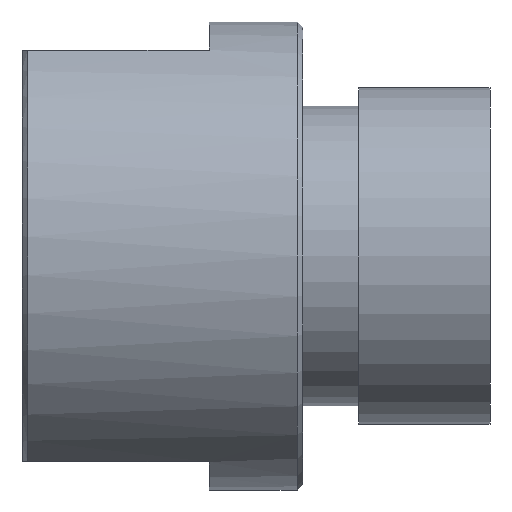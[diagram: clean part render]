
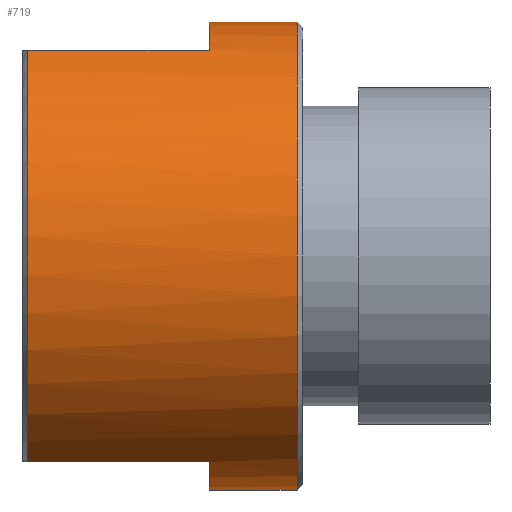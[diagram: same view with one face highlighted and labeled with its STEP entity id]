
A CAD part, left-side view. The second image highlights one B-rep face of the part: STEP entity #719.
In plain terms, the highlighted cylindrical face has radius 12.5 mm (diameter 25 mm), a partial arc.
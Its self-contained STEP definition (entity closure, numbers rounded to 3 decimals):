
#1 = ORIENTED_EDGE ( 'NONE', *, *, #670, .F. ) ;
#2 = VECTOR ( 'NONE', #641, 1000. ) ;
#24 = CARTESIAN_POINT ( 'NONE',  ( 0., 5., 0. ) ) ;
#25 = VERTEX_POINT ( 'NONE', #436 ) ;
#37 = VECTOR ( 'NONE', #693, 1000. ) ;
#43 = VERTEX_POINT ( 'NONE', #574 ) ;
#46 = EDGE_CURVE ( 'NONE', #465, #43, #843, .T. ) ;
#126 = CYLINDRICAL_SURFACE ( 'NONE', #742, 12.5 ) ;
#136 = CARTESIAN_POINT ( 'NONE',  ( 0., 0.3, 12.5 ) ) ;
#155 = EDGE_CURVE ( 'NONE', #25, #853, #684, .T. ) ;
#157 = CARTESIAN_POINT ( 'NONE',  ( 0., 15., 0. ) ) ;
#158 = DIRECTION ( 'NONE',  ( -1., 0., 0. ) ) ;
#162 = ORIENTED_EDGE ( 'NONE', *, *, #649, .F. ) ;
#164 = CARTESIAN_POINT ( 'NONE',  ( 0., 5., 0. ) ) ;
#170 = DIRECTION ( 'NONE',  ( 0., -1., 0. ) ) ;
#172 = ORIENTED_EDGE ( 'NONE', *, *, #46, .T. ) ;
#173 = CIRCLE ( 'NONE', #754, 12.5 ) ;
#189 = LINE ( 'NONE', #354, #37 ) ;
#193 = ORIENTED_EDGE ( 'NONE', *, *, #781, .F. ) ;
#202 = EDGE_CURVE ( 'NONE', #209, #453, #173, .T. ) ;
#209 = VERTEX_POINT ( 'NONE', #508 ) ;
#232 = CIRCLE ( 'NONE', #512, 12.5 ) ;
#243 = ORIENTED_EDGE ( 'NONE', *, *, #584, .T. ) ;
#246 = LINE ( 'NONE', #538, #773 ) ;
#252 = VERTEX_POINT ( 'NONE', #709 ) ;
#270 = CARTESIAN_POINT ( 'NONE',  ( 0., 5., -12.5 ) ) ;
#290 = DIRECTION ( 'NONE',  ( 0., 0., -1. ) ) ;
#350 = CARTESIAN_POINT ( 'NONE',  ( -5.937, 15., 11. ) ) ;
#354 = CARTESIAN_POINT ( 'NONE',  ( -5.937, 15., -11. ) ) ;
#361 = DIRECTION ( 'NONE',  ( 0., -1., 0. ) ) ;
#379 = ORIENTED_EDGE ( 'NONE', *, *, #202, .T. ) ;
#431 = ORIENTED_EDGE ( 'NONE', *, *, #714, .F. ) ;
#436 = CARTESIAN_POINT ( 'NONE',  ( 0., 0.3, -12.5 ) ) ;
#438 = EDGE_LOOP ( 'NONE', ( #193, #172, #431, #379, #1, #162, #243, #837 ) ) ;
#453 = VERTEX_POINT ( 'NONE', #802 ) ;
#465 = VERTEX_POINT ( 'NONE', #471 ) ;
#471 = CARTESIAN_POINT ( 'NONE',  ( 0., 5., 12.5 ) ) ;
#493 = DIRECTION ( 'NONE',  ( 0., 0., 1. ) ) ;
#506 = CARTESIAN_POINT ( 'NONE',  ( 0., 0.3, 0. ) ) ;
#508 = CARTESIAN_POINT ( 'NONE',  ( -5.937, 14.7, 11. ) ) ;
#512 = AXIS2_PLACEMENT_3D ( 'NONE', #164, #563, #158 ) ;
#535 = FACE_OUTER_BOUND ( 'NONE', #438, .T. ) ;
#538 = CARTESIAN_POINT ( 'NONE',  ( 0., 15., -12.5 ) ) ;
#563 = DIRECTION ( 'NONE',  ( 0., 1., 0. ) ) ;
#574 = CARTESIAN_POINT ( 'NONE',  ( -5.937, 5., 11. ) ) ;
#584 = EDGE_CURVE ( 'NONE', #794, #25, #246, .T. ) ;
#588 = DIRECTION ( 'NONE',  ( 0., -1., 0. ) ) ;
#635 = LINE ( 'NONE', #838, #2 ) ;
#641 = DIRECTION ( 'NONE',  ( 0., -1., 0. ) ) ;
#643 = DIRECTION ( 'NONE',  ( 0., 0., -1. ) ) ;
#647 = DIRECTION ( 'NONE',  ( 0., 1., 0. ) ) ;
#649 = EDGE_CURVE ( 'NONE', #794, #252, #232, .T. ) ;
#670 = EDGE_CURVE ( 'NONE', #252, #453, #189, .T. ) ;
#681 = DIRECTION ( 'NONE',  ( 0., -1., 0. ) ) ;
#684 = CIRCLE ( 'NONE', #707, 12.5 ) ;
#692 = DIRECTION ( 'NONE',  ( 0., -1., 0. ) ) ;
#693 = DIRECTION ( 'NONE',  ( 0., 1., 0. ) ) ;
#707 = AXIS2_PLACEMENT_3D ( 'NONE', #506, #647, #493 ) ;
#709 = CARTESIAN_POINT ( 'NONE',  ( -5.937, 5., -11. ) ) ;
#714 = EDGE_CURVE ( 'NONE', #209, #43, #724, .T. ) ;
#719 = ADVANCED_FACE ( 'NONE', ( #535 ), #126, .T. ) ;
#724 = LINE ( 'NONE', #350, #738 ) ;
#730 = AXIS2_PLACEMENT_3D ( 'NONE', #24, #170, #643 ) ;
#738 = VECTOR ( 'NONE', #361, 1000. ) ;
#742 = AXIS2_PLACEMENT_3D ( 'NONE', #157, #692, #290 ) ;
#754 = AXIS2_PLACEMENT_3D ( 'NONE', #849, #588, #795 ) ;
#773 = VECTOR ( 'NONE', #681, 1000. ) ;
#781 = EDGE_CURVE ( 'NONE', #465, #853, #635, .T. ) ;
#794 = VERTEX_POINT ( 'NONE', #270 ) ;
#795 = DIRECTION ( 'NONE',  ( 0., 0., 1. ) ) ;
#802 = CARTESIAN_POINT ( 'NONE',  ( -5.937, 14.7, -11. ) ) ;
#837 = ORIENTED_EDGE ( 'NONE', *, *, #155, .T. ) ;
#838 = CARTESIAN_POINT ( 'NONE',  ( 0., 15., 12.5 ) ) ;
#843 = CIRCLE ( 'NONE', #730, 12.5 ) ;
#849 = CARTESIAN_POINT ( 'NONE',  ( 0., 14.7, 0. ) ) ;
#853 = VERTEX_POINT ( 'NONE', #136 ) ;
